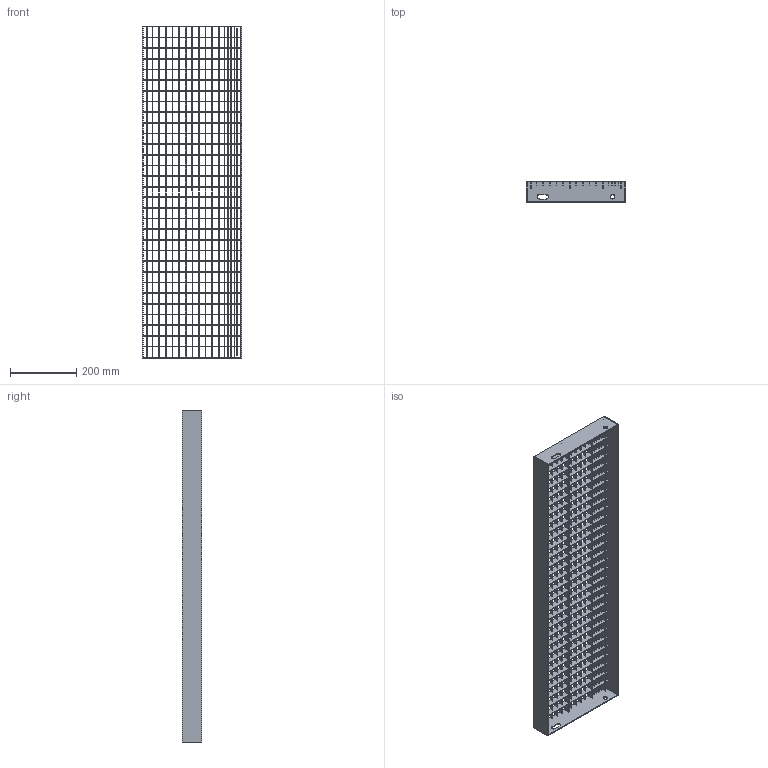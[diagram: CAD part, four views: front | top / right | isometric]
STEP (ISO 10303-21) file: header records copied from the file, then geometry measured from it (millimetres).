
FILE_DESCRIPTION (( 'STEP AP203' ), '1' );
FILE_NAME ('23007301S_ Gitterristetrin_300x1000mm.STEP', '2014-12-15T12:48:15', ( '' ), ( '' ), 'SwSTEP 2.0', 'SolidWorks 2013', '' );
FILE_SCHEMA (( 'CONFIG_CONTROL_DESIGN' ));
Length unit declared in the file: millimetre
Products named in the file (9): Styreribbe_m_savtak_20x2x994mm; 23007301S_ Gitterristetrin_300x1000mm; Endestykke_60x3x294mm; Kantstaal_60x3x1000mm; Kantstaal_m_savtak_60x3x1000mm (2); Baereribbe_20x2x294; Fylderibbe_10x2x994mm; Fylderibbe_m_savtak_10x2x994mm; Styreribbe_20x2x994mm
Assembly tree (51 placements, depth 2):
  23007301S_ Gitterristetrin_300x1000mm
    Endestykke_60x3x294mm  x2
    Kantstaal_60x3x1000mm
    Kantstaal_m_savtak_60x3x1000mm (2)
    Baereribbe_20x2x294  x30
    Fylderibbe_10x2x994mm  x9
    Fylderibbe_m_savtak_10x2x994mm  x4
    Styreribbe_20x2x994mm  x3
    Styreribbe_m_savtak_20x2x994mm
Bounding box: 300 x 60 x 1000 mm (x, y, z)
Volume: 1194153.3 mm3; surface area: 1192914.2 mm2
Topology: 51 solids, 51 shells, 6196 faces, 18282 edges, 12188 vertices
Faces by surface type: plane 5350, cylinder 846
Full cylindrical faces by diameter (mm): 14 x2
Entity records: 70173 total; most frequent: CARTESIAN_POINT 12219, ORIENTED_EDGE 12148, DIRECTION 11110, EDGE_CURVE 6074, VECTOR 5228, LINE 5228, VERTEX_POINT 4050, AXIS2_PLACEMENT_3D 2941
